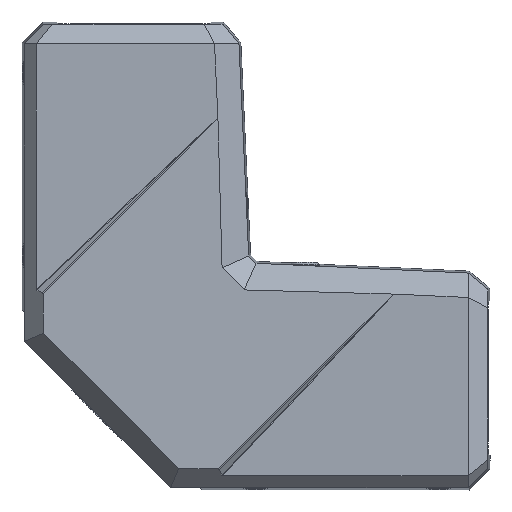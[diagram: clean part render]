
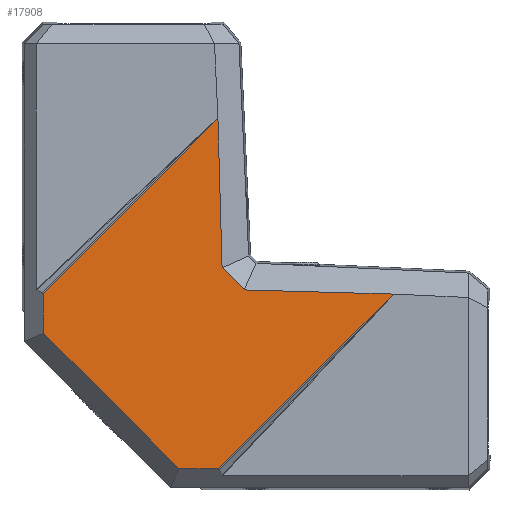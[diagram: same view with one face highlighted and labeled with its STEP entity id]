
A CAD part, left-side view. The second image highlights one B-rep face of the part: STEP entity #17908.
In plain terms, the highlighted planar face has unit normal (-1, -0.019, 0.019).
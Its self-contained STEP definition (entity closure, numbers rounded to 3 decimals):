
#7819=DIRECTION('',(-0.027,0.707,-0.707));
#7820=VECTOR('',#7819,101.426);
#7821=CARTESIAN_POINT('',(-41.009,-107.411,
35.579));
#7822=LINE('',#7821,#7820);
#7826=DIRECTION('',(-0.018,1.,0.018));
#7827=VECTOR('',#7826,16.225);
#7828=CARTESIAN_POINT('',(-43.701,-35.717,
-36.115));
#7829=LINE('',#7828,#7827);
#7833=DIRECTION('',(0.,-0.707,-0.707));
#7834=VECTOR('',#7833,78.225);
#7835=CARTESIAN_POINT('',(-44.,35.816,19.498));
#7836=LINE('',#7835,#7834);
#7840=DIRECTION('',(-0.018,-0.018,-1.));
#7841=VECTOR('',#7840,16.225);
#7842=CARTESIAN_POINT('',(-43.701,36.115,35.717));
#7843=LINE('',#7842,#7841);
#7847=DIRECTION('',(0.027,-0.707,0.707));
#7848=VECTOR('',#7847,101.426);
#7849=CARTESIAN_POINT('',(-43.701,36.115,35.717));
#7850=LINE('',#7849,#7848);
#7854=DIRECTION('',(0.018,0.028,0.999));
#7855=VECTOR('',#7854,61.078);
#7856=CARTESIAN_POINT('',(-42.124,-37.27,
46.367));
#7857=LINE('',#7856,#7855);
#7861=DIRECTION('',(0.,0.707,0.707));
#7862=VECTOR('',#7861,12.864);
#7863=CARTESIAN_POINT('',(-42.124,-46.367,
37.27));
#7864=LINE('',#7863,#7862);
#7868=DIRECTION('',(0.018,-0.999,-0.028));
#7869=VECTOR('',#7868,61.078);
#7870=CARTESIAN_POINT('',(-42.124,-46.367,
37.27));
#7871=LINE('',#7870,#7869);
#11381=CARTESIAN_POINT('',(-42.124,-46.367,
37.27));
#11382=CARTESIAN_POINT('',(-42.124,-37.27,
46.367));
#11383=VERTEX_POINT('',#11381);
#11384=VERTEX_POINT('',#11382);
#12113=CARTESIAN_POINT('',(-41.009,-107.411,
35.579));
#12114=CARTESIAN_POINT('',(-43.701,-35.717,
-36.115));
#12115=VERTEX_POINT('',#12113);
#12116=VERTEX_POINT('',#12114);
#12117=CARTESIAN_POINT('',(-43.701,36.115,
35.717));
#12118=CARTESIAN_POINT('',(-41.009,-35.579,
107.411));
#12119=VERTEX_POINT('',#12117);
#12120=VERTEX_POINT('',#12118);
#12173=CARTESIAN_POINT('',(-44.,35.816,19.498));
#12174=CARTESIAN_POINT('',(-44.,-19.498,-35.816));
#12175=VERTEX_POINT('',#12173);
#12176=VERTEX_POINT('',#12174);
#17889=CARTESIAN_POINT('',(-41.,-35.681,107.806));
#17890=DIRECTION('',(-1.,-0.019,0.019));
#17891=DIRECTION('',(-0.027,0.707,-0.707));
#17892=AXIS2_PLACEMENT_3D('',#17889,#17890,#17891);
#17893=PLANE('',#17892);
#17894=ORIENTED_EDGE('',*,*,#17882,.T.);
#17895=ORIENTED_EDGE('',*,*,#17659,.T.);
#17897=ORIENTED_EDGE('',*,*,#17896,.F.);
#17899=ORIENTED_EDGE('',*,*,#17898,.F.);
#17900=ORIENTED_EDGE('',*,*,#12482,.T.);
#17901=ORIENTED_EDGE('',*,*,#12504,.F.);
#17903=ORIENTED_EDGE('',*,*,#17902,.F.);
#17905=ORIENTED_EDGE('',*,*,#17904,.T.);
#17906=EDGE_LOOP('',(#17894,#17895,#17897,#17899,#17900,#17901,#17903,#17905));
#17907=FACE_OUTER_BOUND('',#17906,.F.);
#12482=EDGE_CURVE('',#12119,#12120,#7850,.T.);
#12504=EDGE_CURVE('',#11384,#12120,#7857,.T.);
#17659=EDGE_CURVE('',#12116,#12176,#7829,.T.);
#17882=EDGE_CURVE('',#12115,#12116,#7822,.T.);
#17896=EDGE_CURVE('',#12175,#12176,#7836,.T.);
#17898=EDGE_CURVE('',#12119,#12175,#7843,.T.);
#17902=EDGE_CURVE('',#11383,#11384,#7864,.T.);
#17904=EDGE_CURVE('',#11383,#12115,#7871,.T.);
#17908=ADVANCED_FACE('',(#17907),#17893,.T.);
